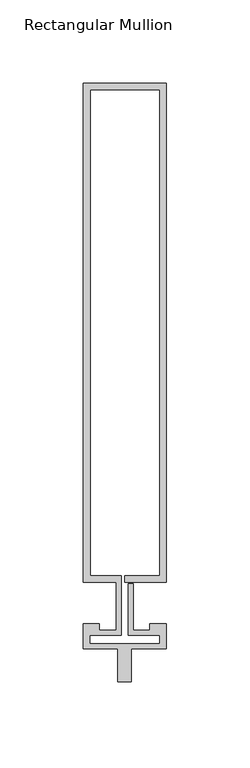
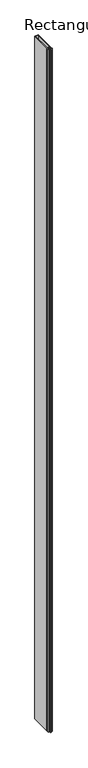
"""IFC4 building model written with IfcOpenShell, lengths in millimetres: member geometry, Rectangular Mullion : Reynaers_CW-50_Mullion-Transom_Vertical_300.5mm_Facecap-06A."""

from ifc_helpers import new_model, si_unit, frame, origin, place, context, project, spatial, polyline, outline, extrude, source, transform, mapped, element, save


def rectangular_mullion_7178fe73(model_context):
    return source(origin(), model_context, "Body", "SweptSolid", [
        extrude(outline(polyline([(-24.8004059, 313.0), (25.1995941, 313.0), (25.1995941, 12.5), (0.0, 12.5), (0.0, 16.5), (21.1995941, 16.5), (21.1995941, 309.0), (-20.8004059, 309.0), (-20.8004059, 16.5), (-1.9004059, 16.5), (-1.9004059, -19.5), (-20.994845, -19.5), (-20.994845, -24.4191338), (21.1995941, -24.4191338), (21.1995941, -19.5), (2.2995941, -19.5), (2.2995941, 11.5), (5.2995941, 11.5), (5.2995941, -16.5), (15.2996495, -16.5), (15.2996495, -12.5), (25.1995941, -12.5), (25.1995941, -27.5), (4.004855, -27.5), (4.004855, -47.5), (-3.995145, -47.5), (-3.995145, -27.5), (-24.994845, -27.5), (-24.994845, -12.5), (-15.2996495, -12.5), (-15.2996495, -16.5), (-4.9004059, -16.5), (-4.9004059, 12.5), (-24.8004059, 12.5), (-24.8004059, 313.0)])), frame((0.0, 0.0, -10400.0), z_axis=(0.0, 0.0, 1.0), x_axis=(1.0, 0.0, 0.0)), (0.0, 0.0, 1.0), 10400.0),
    ])


if __name__ == "__main__":
    model = new_model("IFC4")
    model_context = context("Model", 3, world=origin())
    ifc_project = project(units=[si_unit("LENGTHUNIT", "METRE", prefix="MILLI")], contexts=[model_context])
    site = spatial("IfcSite", under=ifc_project)
    building = spatial("IfcBuilding", under=site)
    placement = place(None, origin())
    rectangular_mullion_shape = rectangular_mullion_7178fe73(model_context)
    element("IfcMember", 1, ObjectType="Rectangular Mullion : Reynaers_CW-50_Mullion-Transom_Vertical_300.5mm_Facecap-06A", at=placement, inside=building, context=model_context, shape_type="MappedRepresentation", body=[
        mapped(rectangular_mullion_shape, transform((0.0, 0.0, 0.0), x_axis=(1.0, 0.0, 0.0), y_axis=(0.0, 1.0, 0.0), z_axis=(0.0, 0.0, 1.0))),
    ])
    save(model, "model.ifc")
